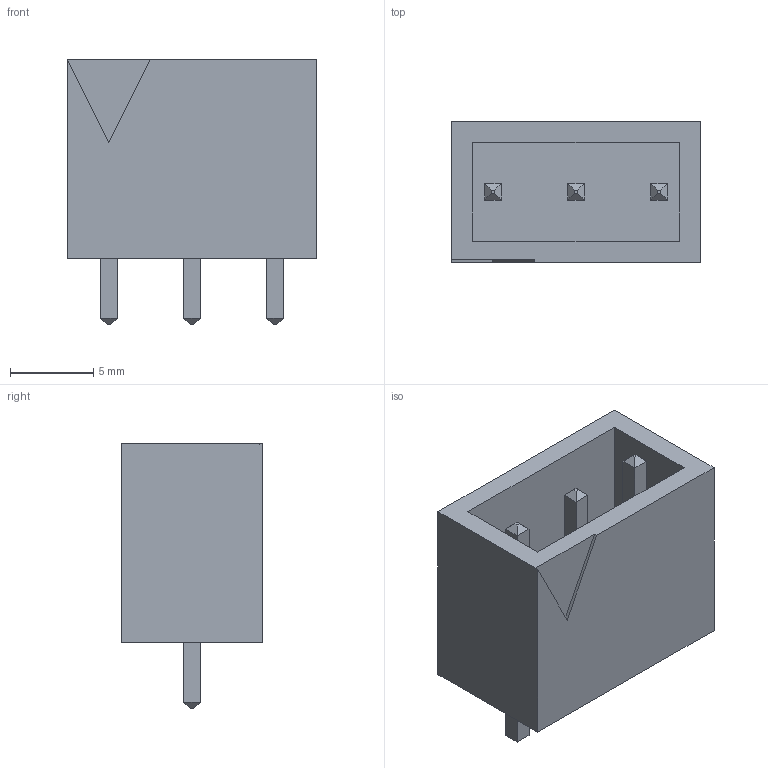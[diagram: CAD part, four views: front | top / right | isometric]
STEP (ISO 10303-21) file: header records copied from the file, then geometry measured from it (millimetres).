
FILE_DESCRIPTION(('FreeCAD Model'),'2;1');
FILE_NAME('/var/www/3D/0T/464215.1.1.stp','2020-11-12T14:17:29',( 'Author'),(''),'Open CASCADE STEP processor 6.9','FreeCAD','Unknown' );
FILE_SCHEMA(('AUTOMOTIVE_DESIGN { 1 0 10303 214 1 1 1 1 }'));
Length unit declared in the file: millimetre
Products named in the file (3): ASSEMBLY; Body; LeadsArray
Assembly tree (2 placements, depth 2):
  ASSEMBLY
    Body
    LeadsArray
Bounding box: 15 x 8.5 x 16 mm (x, y, z)
Volume: 996.5 mm3; surface area: 1298 mm2
Topology: 4 solids, 4 shells, 56 faces, 116 edges, 69 vertices
Faces by surface type: plane 56
Entity records: 3008 total; most frequent: CARTESIAN_POINT 476, DIRECTION 466, LINE 348, VECTOR 348, ORIENTED_EDGE 232, PCURVE 232, DEFINITIONAL_REPRESENTATION 232, EDGE_CURVE 116
